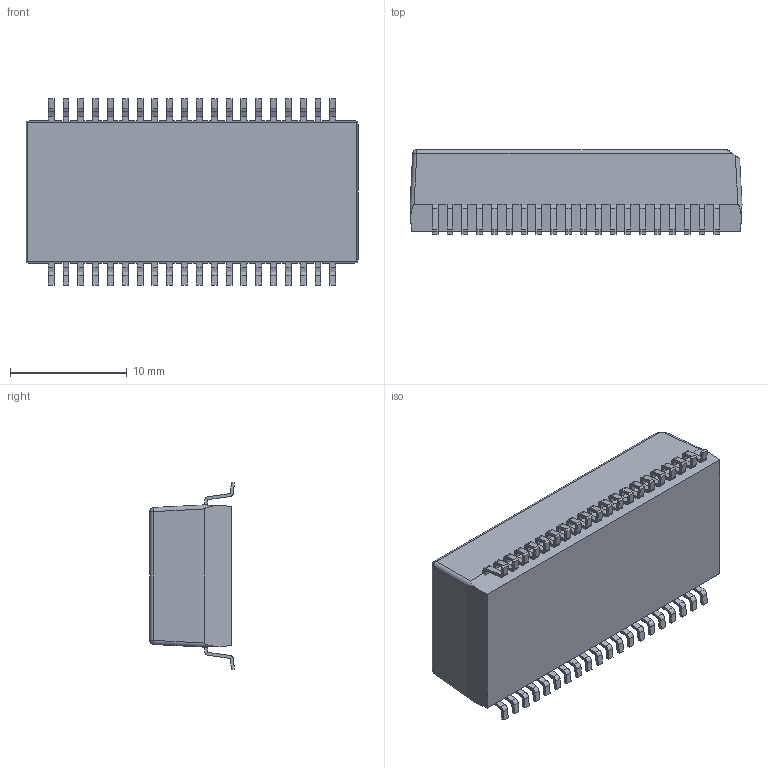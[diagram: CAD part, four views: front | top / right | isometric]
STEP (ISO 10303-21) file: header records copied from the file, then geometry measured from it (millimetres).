
FILE_DESCRIPTION (( 'STEP AP214' ), '1' );
FILE_NAME ('HX1234NL_3D.STEP', '2017-07-25T06:32:26', ( '' ), ( '' ), 'SwSTEP 2.0', 'SolidWorks 2015', '' );
FILE_SCHEMA (( 'AUTOMOTIVE_DESIGN' ));
Length unit declared in the file: millimetre
Products named in the file (1): HX1234NL_3D
Bounding box: 28.45 x 7.25 x 16.01 mm (x, y, z)
Volume: 2377.3 mm3; surface area: 1433.8 mm2
Topology: 1 solids, 1 shells, 543 faces, 1536 edges, 994 vertices
Faces by surface type: plane 372, cylinder 169, sphere 2
Entity records: 17444 total; most frequent: CARTESIAN_POINT 3108, ORIENTED_EDGE 3068, DIRECTION 2940, EDGE_CURVE 1534, LINE 1192, VECTOR 1192, VERTEX_POINT 994, AXIS2_PLACEMENT_3D 874
